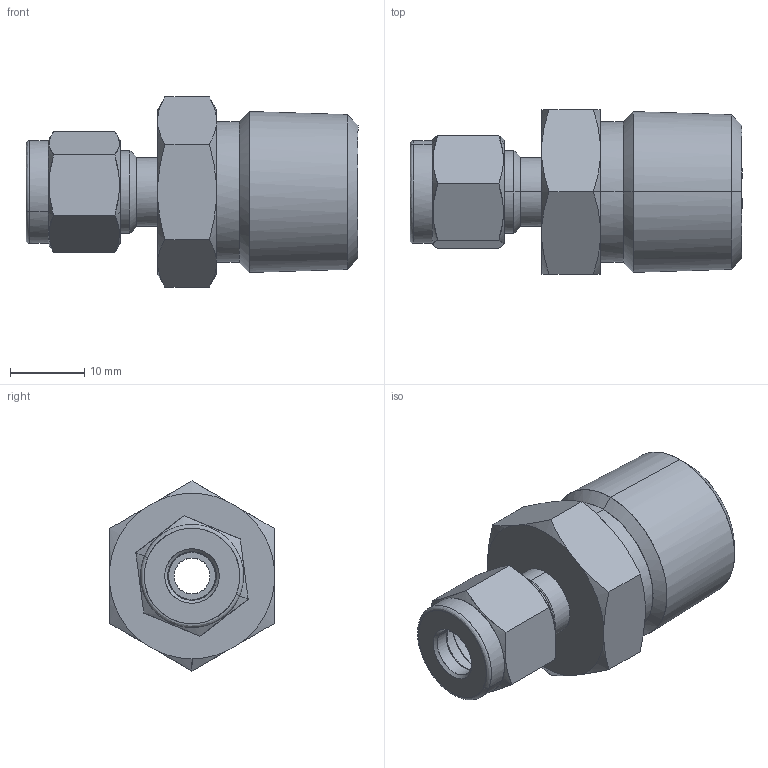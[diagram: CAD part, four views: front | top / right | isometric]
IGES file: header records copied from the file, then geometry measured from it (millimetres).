
Start section: Comment
Global section: file name: SMC4-8N.igs; native system:  By UGS Corp.; preprocessor: XPlus GENERIC/IGES 3.0; author: Author; organization: Title; date: 20100113.145703; units: millimetre
Bounding box: 44.78 x 22.2 x 25.63 mm (x, y, z)
Surface area: 4971.8 mm2 (no closed solid volume)
Topology: 0 solids, 0 shells, 97 faces, 572 edges, 567 vertices
Faces by surface type: bspline 97
